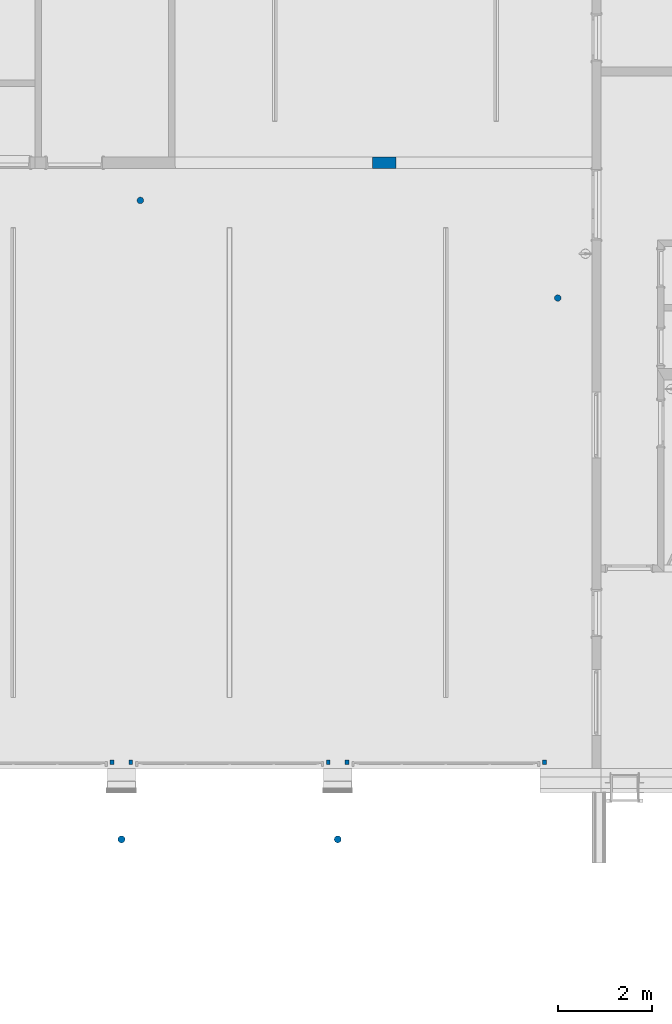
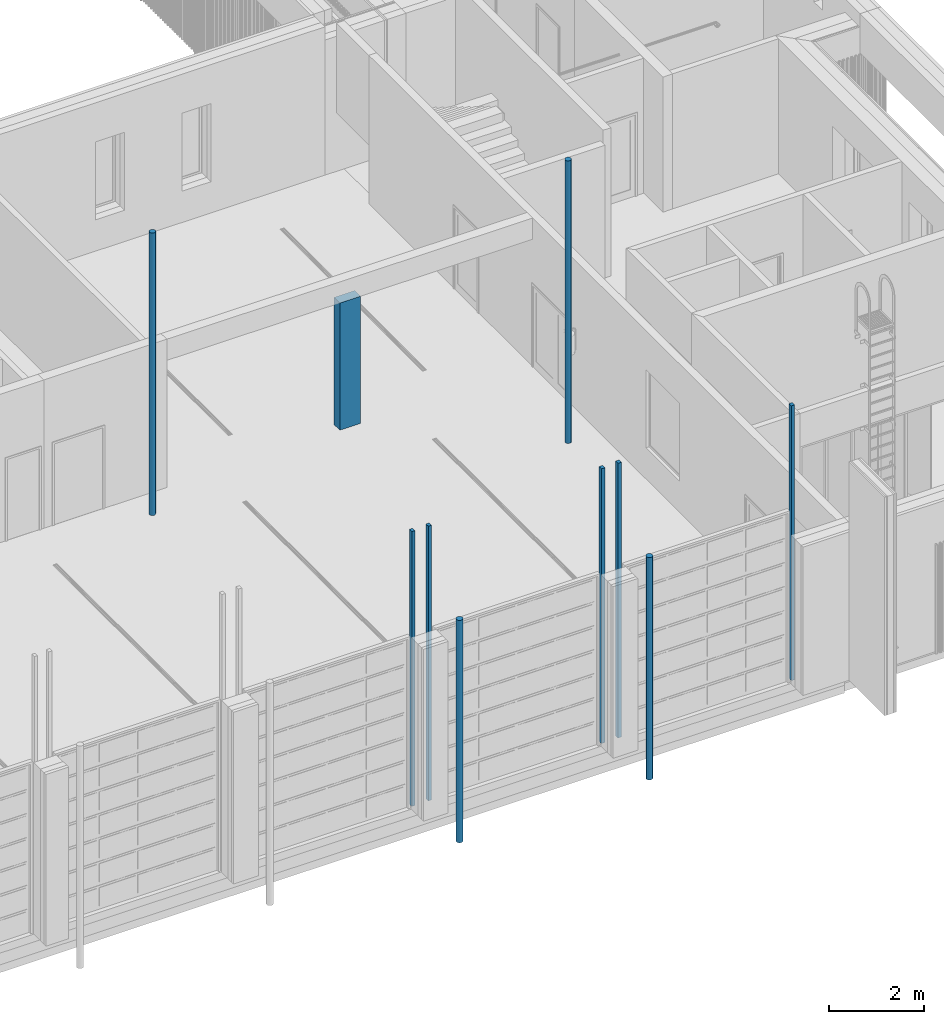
# One storey, part 5 of 112: 10 columns.
"""IFC2X3 building model written with IfcOpenShell, lengths in millimetres."""

from ifc_helpers import new_model, entity, si_unit, converted_unit, derived_unit, money_unit, direction, frame, origin_with_axes, origin_2d_with_axis, place, context, subcontext, project, spatial, rectangle, circle, extrude, material, type_object, element, save


model = new_model("IFC2X3")

# Units and contexts
model_context = context("Model", 3, precision=0.01, world=origin_with_axes(), true_north=direction((0.0, 1.0)))
body_context = subcontext(model_context, "Body", "Model", "MODEL_VIEW")
ifc_project = project(units=[si_unit("LENGTHUNIT", "METRE", prefix="MILLI"), si_unit("AREAUNIT", "SQUARE_METRE"), si_unit("VOLUMEUNIT", "CUBIC_METRE"), converted_unit("PLANEANGLEUNIT", "DEGREE", entity("IfcPlaneAngleMeasure", 0.0174532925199), si_unit("PLANEANGLEUNIT", "RADIAN"), dimensions=[0, 0, 0, 0, 0, 0, 0]), si_unit("SOLIDANGLEUNIT", "STERADIAN"), money_unit("EUR"), converted_unit("TIMEUNIT", "Year", entity("IfcTimeMeasure", 31556926.0), si_unit("TIMEUNIT", "SECOND"), dimensions=[0, 0, 1, 0, 0, 0, 0]), si_unit("MASSUNIT", "GRAM", prefix="KILO"), si_unit("THERMODYNAMICTEMPERATUREUNIT", "DEGREE_CELSIUS"), si_unit("LUMINOUSINTENSITYUNIT", "LUMEN"), si_unit("ENERGYUNIT", "JOULE", prefix="MEGA"), derived_unit("THERMALCONDUCTANCEUNIT", [(si_unit("POWERUNIT", "WATT"), 1), (si_unit("LENGTHUNIT", "METRE"), -1), (si_unit("THERMODYNAMICTEMPERATUREUNIT", "KELVIN"), -1)]), derived_unit("SPECIFICHEATCAPACITYUNIT", [(si_unit("ENERGYUNIT", "JOULE"), 1), (si_unit("MASSUNIT", "GRAM", prefix="KILO"), -1), (si_unit("THERMODYNAMICTEMPERATUREUNIT", "KELVIN"), -1)]), derived_unit("MASSDENSITYUNIT", [(si_unit("MASSUNIT", "GRAM", prefix="KILO"), 1), (si_unit("VOLUMEUNIT", "CUBIC_METRE"), -1)])], contexts=[model_context])

# Site, building, storey
site_placement = place(None, origin_with_axes())
site = spatial("IfcSite", under=ifc_project, at=site_placement, Name="Politse- ja Piirivalveameti ning Päästeameti ühishoone", CompositionType="ELEMENT")
building_placement = place(site_placement, origin_with_axes())
building = spatial("IfcBuilding", under=site, at=building_placement, Name="Politse- ja Piirivalveameti ning Päästeameti ühishoone", CompositionType="ELEMENT")
storey_placement = place(building_placement, origin_with_axes())
storey = spatial("IfcBuildingStorey", under=building, at=storey_placement, Name="Esimene korrus", CompositionType="ELEMENT", Elevation=0.0)

# Columns
ifc_material_1 = material(Name="ET-05_Teras")
column_type_1 = type_object("IfcColumnType", Name="ET-05_Teras D140", PredefinedType="COLUMN")
for number, where, z_axis, x_axis in (
    (1, (50362.2674355, 12080.0187917, 0.0), (0.0, 0.0, 1.0), (1.0, 0.0, 0.0)),
    (2, (59240.5508424, 10003.6272553, 0.0), (0.0, 0.0, 1.0), (1.0, 0.0, 0.0)),
):
    element("IfcColumn", number, at=place(storey_placement, frame(where, z_axis=z_axis, x_axis=x_axis)), inside=storey, type_object=column_type_1, material=ifc_material_1, Name="Torulift", ObjectType="COLUMN", context=body_context, shape_type="SweptSolid", body=[
        extrude(circle(Radius=70.0, at=origin_2d_with_axis()), origin_with_axes(), (0.0, 0.0, 1.0), 7240.0),
    ])
ifc_material_2 = material(Name="KON-00_GENEERILINE - KONSTRUKTSIOON")
column_type_2 = type_object("IfcColumnType", Name="KON-00_GENEERILINE - KONSTRUKTSIOON D150", PredefinedType="COLUMN")
for number, where, z_axis, x_axis, name in (
    (3, (54560.544884, -1510.44069478, 0.0), (0.0, 0.0, 1.0), (1.0, 0.0, 0.0), "POST"),
    (4, (49960.5378563, -1510.44069478, 0.0), (0.0, 0.0, 1.0), (1.0, 0.0, 0.0), "POST"),
):
    element("IfcColumn", number, at=place(storey_placement, frame(where, z_axis=z_axis, x_axis=x_axis)), inside=storey, type_object=column_type_2, material=ifc_material_2, Name=name, ObjectType="COLUMN", context=body_context, shape_type="SweptSolid", body=[
        extrude(circle(Radius=75.0, at=origin_2d_with_axis()), origin_with_axes(), (0.0, 0.0, 1.0), 5700.0),
    ])
ifc_material_3 = material(Name="ET-02_Raudbetoon - Toode")
column_type_3 = type_object("IfcColumnType", Name="ET-02_Raudbetoon - Toode 500 x 240", PredefinedType="COLUMN")
column_placement = place(storey_placement, frame((55545.5460393, 12880.0039184, 0.0), z_axis=(0.0, 0.0, 1.0), x_axis=(1.0, 0.0, 0.0)))
element("IfcColumn", 5, at=column_placement, inside=storey, type_object=column_type_3, material=ifc_material_3, Name="POST", ObjectType="COLUMN", context=body_context, shape_type="SweptSolid", body=[
    extrude(rectangle(XDim=500.000000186, YDim=240.000065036, at=origin_2d_with_axis()), origin_with_axes(), (0.0, 0.0, 1.0), 3258.0),
])
column_type_4 = type_object("IfcColumnType", Name="KON-00_GENEERILINE - KONSTRUKTSIOON 80 x 100", PredefinedType="COLUMN")
for number, where, z_axis, x_axis, name in (
    (6, (49760.5343424, 130.739431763, 0.0), (0.0, 0.0, 1.0), (1.0, 0.0, 0.0), "POST"),
    (7, (50160.3351399, 130.739431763, 0.0), (0.0, 0.0, 1.0), (1.0, 0.0, 0.0), "POST"),
    (8, (54360.5413701, 130.739431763, 0.0), (0.0, 0.0, 1.0), (1.0, 0.0, 0.0), "POST"),
    (9, (54760.3421677, 130.739431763, 0.0), (0.0, 0.0, 1.0), (1.0, 0.0, 0.0), "POST"),
    (10, (58960.5483979, 130.739431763, 0.0), (0.0, 0.0, 1.0), (1.0, 0.0, 0.0), "POST"),
):
    element("IfcColumn", number, at=place(storey_placement, frame(where, z_axis=z_axis, x_axis=x_axis)), inside=storey, type_object=column_type_4, material=ifc_material_2, Name=name, ObjectType="COLUMN", context=body_context, shape_type="SweptSolid", body=[
        extrude(rectangle(XDim=80.0, YDim=100.0, at=origin_2d_with_axis()), origin_with_axes(), (0.0, 0.0, 1.0), 7040.0),
    ])

save(model, "model.ifc")
